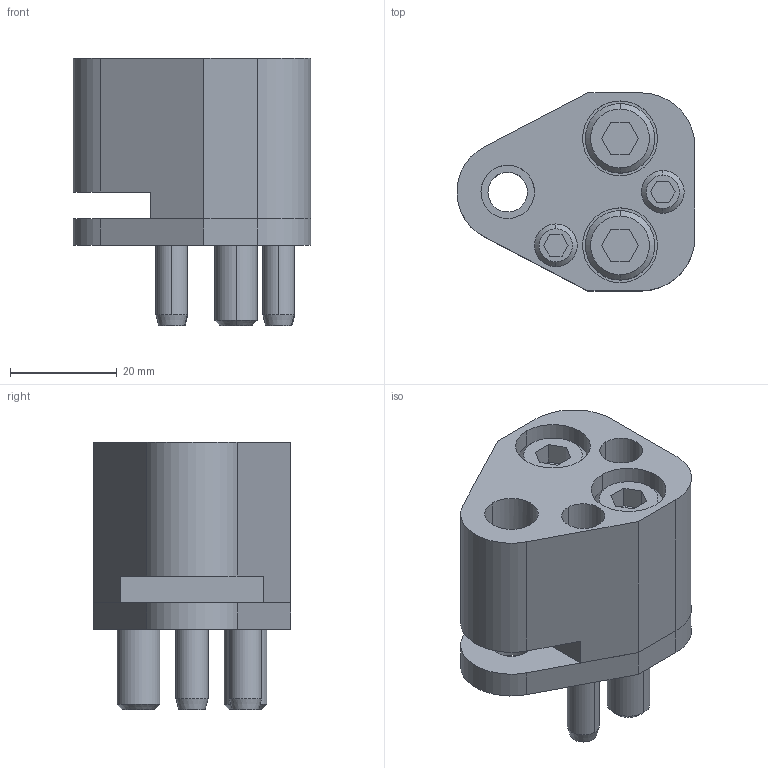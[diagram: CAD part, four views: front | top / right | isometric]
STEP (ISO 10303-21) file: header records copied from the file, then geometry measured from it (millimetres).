
FILE_DESCRIPTION(/* description */ (''),/* implementation_level */ '2;1');
FILE_NAME(/* name */ '3d_cp-fd10_03592_r00.stp',/* time_stamp */ '2011-01-10T14:16:29+09:00',/* author */ ('MISUMI'),/* organization */ (''),/* preprocessor_version */ 'ST-DEVELOPER v11',/* originating_system */ 'UGS - NX 5.0',/* authorisation */ '');
FILE_SCHEMA (('CONFIG_CONTROL_DESIGN'));
Length unit declared in the file: millimetre
Products named in the file (1): 3d_cp-fd10_03592_r00
Bounding box: 44.47 x 37 x 50 mm (x, y, z)
Volume: 40041.7 mm3; surface area: 18792.9 mm2
Topology: 8 solids, 8 shells, 154 faces, 352 edges, 227 vertices
Faces by surface type: plane 68, cylinder 60, cone 26
Entity records: 4516 total; most frequent: DIRECTION 802, CARTESIAN_POINT 793, ORIENTED_EDGE 704, EDGE_CURVE 352, AXIS2_PLACEMENT_3D 302, VERTEX_POINT 227, LINE 198, VECTOR 198
